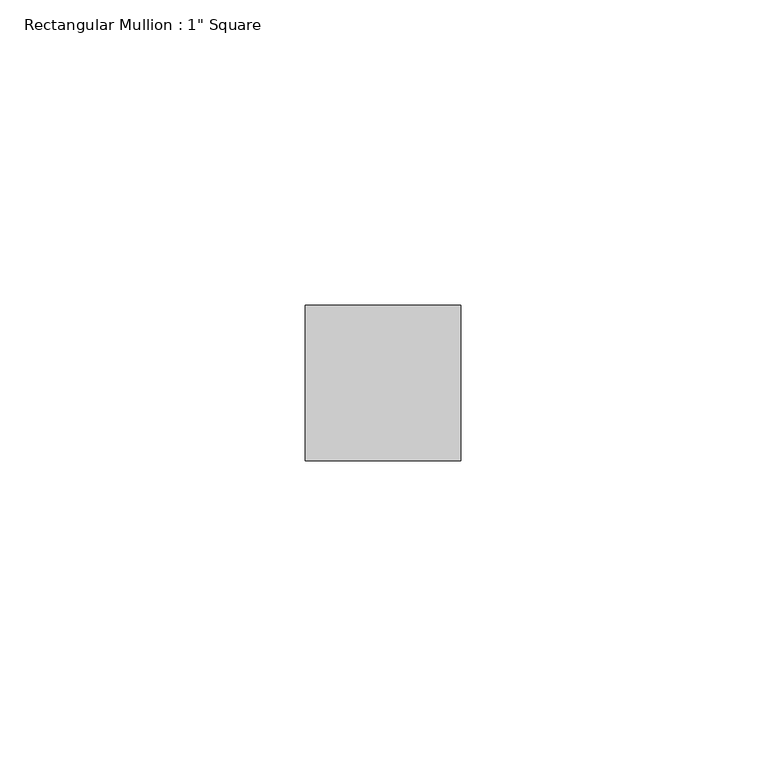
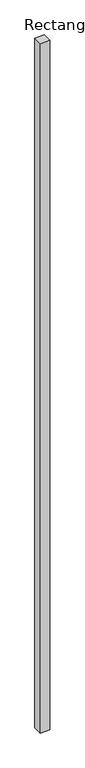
"""IFC4 building model written with IfcOpenShell, lengths in millimetres: member geometry."""

from ifc_helpers import new_model, si_unit, frame, origin, place, context, project, spatial, polyline, outline, extrude, source, transform, mapped, element, save


def member_63af7368(model_context):
    return source(origin(), model_context, "Body", "SweptSolid", [
        extrude(outline(polyline([(12.7, 12.7), (12.7, -12.7), (-12.7, -12.7), (-12.7, 12.7), (12.7, 12.7)])), frame((0.0, 0.0, -1948.9670385), z_axis=(0.0, 0.0, 1.0), x_axis=(1.0, 0.0, 0.0)), (0.0, 0.0, 1.0), 1948.9670385),
    ])


if __name__ == "__main__":
    model = new_model("IFC4")
    model_context = context("Model", 3, world=origin())
    ifc_project = project(units=[si_unit("LENGTHUNIT", "METRE", prefix="MILLI")], contexts=[model_context])
    site = spatial("IfcSite", under=ifc_project)
    building = spatial("IfcBuilding", under=site)
    placement = place(None, origin())
    member_shape = member_63af7368(model_context)
    element("IfcMember", 1, ObjectType="Rectangular Mullion : 1\" Square", at=placement, inside=building, context=model_context, shape_type="MappedRepresentation", body=[
        mapped(member_shape, transform((0.0, 0.0, 0.0), x_axis=(1.0, 0.0, 0.0), y_axis=(0.0, 1.0, 0.0), z_axis=(0.0, 0.0, 1.0))),
    ])
    save(model, "model.ifc")
